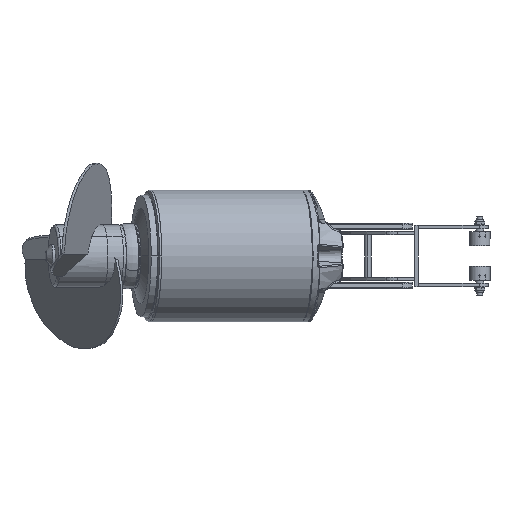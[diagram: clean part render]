
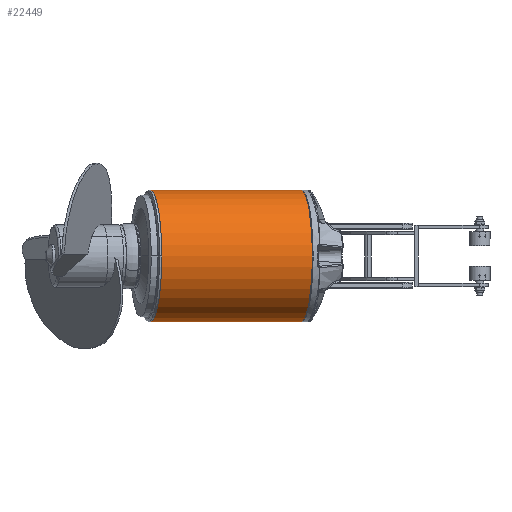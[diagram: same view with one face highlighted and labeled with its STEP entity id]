
A CAD part, front view. The second image highlights one B-rep face of the part: STEP entity #22449.
In plain terms, the highlighted cylindrical face has radius 140.922 mm (diameter 281.843 mm), a partial arc.
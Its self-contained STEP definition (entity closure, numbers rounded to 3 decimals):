
#147 = LINE ( 'NONE', #28528, #9557 ) ;
#3650 = AXIS2_PLACEMENT_3D ( 'NONE', #5269, #37707, #9907 ) ;
#4616 = CARTESIAN_POINT ( 'NONE',  ( -23.296, 86.131, -140.922 ) ) ;
#4971 = AXIS2_PLACEMENT_3D ( 'NONE', #43023, #15296, #47673 ) ;
#5269 = CARTESIAN_POINT ( 'NONE',  ( -345.306, 29.351, 0. ) ) ;
#6272 = ORIENTED_EDGE ( 'NONE', *, *, #14322, .T. ) ;
#6906 = LINE ( 'NONE', #21235, #30177 ) ;
#8557 = CYLINDRICAL_SURFACE ( 'NONE', #13126, 140.922 ) ;
#9557 = VECTOR ( 'NONE', #19395, 1000. ) ;
#9907 = DIRECTION ( 'NONE',  ( 0., 0., -1. ) ) ;
#13126 = AXIS2_PLACEMENT_3D ( 'NONE', #55034, #59694, #55246 ) ;
#13547 = CIRCLE ( 'NONE', #4971, 140.922 ) ;
#14322 = EDGE_CURVE ( 'NONE', #57902, #32671, #44459, .T. ) ;
#15296 = DIRECTION ( 'NONE',  ( 0.985, 0.174, 0. ) ) ;
#15941 = ORIENTED_EDGE ( 'NONE', *, *, #33647, .F. ) ;
#19316 = CARTESIAN_POINT ( 'NONE',  ( -23.296, 86.131, 140.922 ) ) ;
#19395 = DIRECTION ( 'NONE',  ( 0.985, 0.174, 0. ) ) ;
#21235 = CARTESIAN_POINT ( 'NONE',  ( -23.296, 86.131, -140.922 ) ) ;
#21370 = EDGE_CURVE ( 'NONE', #57902, #47708, #147, .T. ) ;
#22449 = ADVANCED_FACE ( 'NONE', ( #25283 ), #8557, .T. ) ;
#25283 = FACE_OUTER_BOUND ( 'NONE', #52032, .T. ) ;
#25837 = DIRECTION ( 'NONE',  ( 0.985, 0.174, 0. ) ) ;
#28052 = CARTESIAN_POINT ( 'NONE',  ( -345.306, 29.351, -140.922 ) ) ;
#28528 = CARTESIAN_POINT ( 'NONE',  ( -23.296, 86.131, 140.922 ) ) ;
#30177 = VECTOR ( 'NONE', #25837, 1000. ) ;
#30190 = CARTESIAN_POINT ( 'NONE',  ( -345.306, 29.351, 140.922 ) ) ;
#32671 = VERTEX_POINT ( 'NONE', #28052 ) ;
#33647 = EDGE_CURVE ( 'NONE', #47708, #41289, #13547, .T. ) ;
#37707 = DIRECTION ( 'NONE',  ( 0.985, 0.174, 0. ) ) ;
#41289 = VERTEX_POINT ( 'NONE', #4616 ) ;
#43023 = CARTESIAN_POINT ( 'NONE',  ( -23.296, 86.131, 0. ) ) ;
#44459 = CIRCLE ( 'NONE', #3650, 140.922 ) ;
#47673 = DIRECTION ( 'NONE',  ( 0., 0., -1. ) ) ;
#47708 = VERTEX_POINT ( 'NONE', #19316 ) ;
#47805 = ORIENTED_EDGE ( 'NONE', *, *, #51845, .T. ) ;
#51845 = EDGE_CURVE ( 'NONE', #32671, #41289, #6906, .T. ) ;
#52032 = EDGE_LOOP ( 'NONE', ( #59437, #6272, #47805, #15941 ) ) ;
#55034 = CARTESIAN_POINT ( 'NONE',  ( -23.296, 86.131, 0. ) ) ;
#55246 = DIRECTION ( 'NONE',  ( 0., 0., -1. ) ) ;
#57902 = VERTEX_POINT ( 'NONE', #30190 ) ;
#59437 = ORIENTED_EDGE ( 'NONE', *, *, #21370, .F. ) ;
#59694 = DIRECTION ( 'NONE',  ( 0.985, 0.174, 0. ) ) ;
